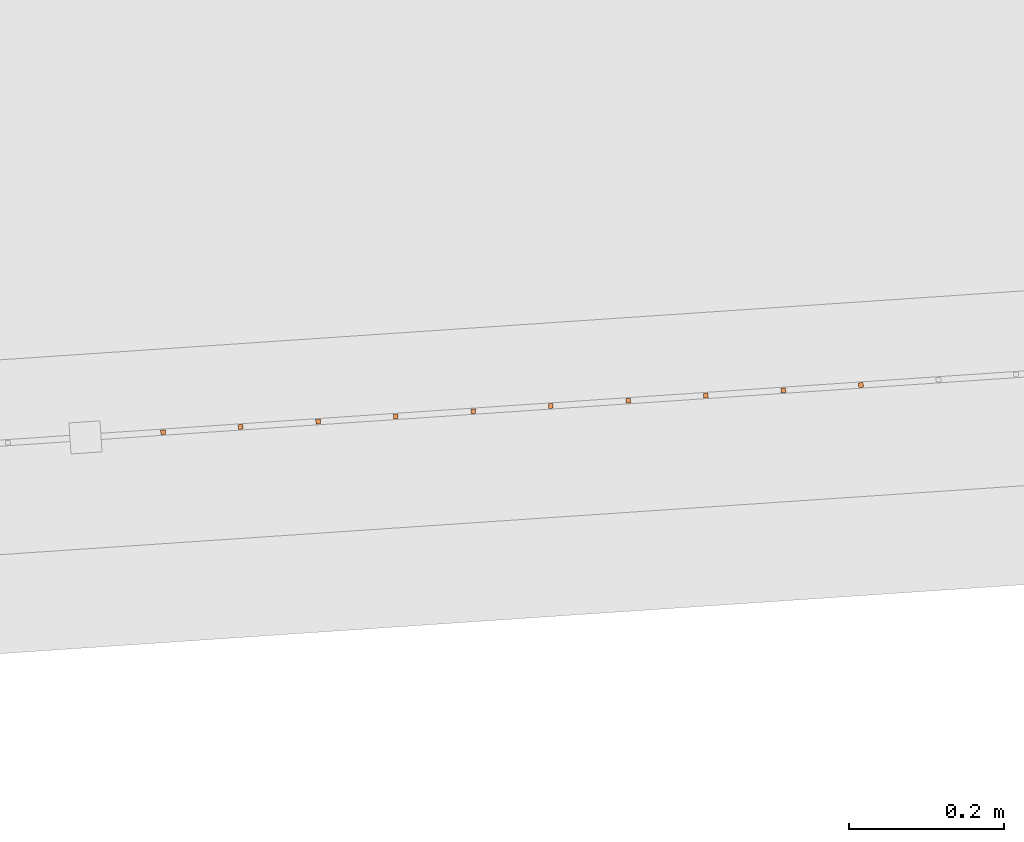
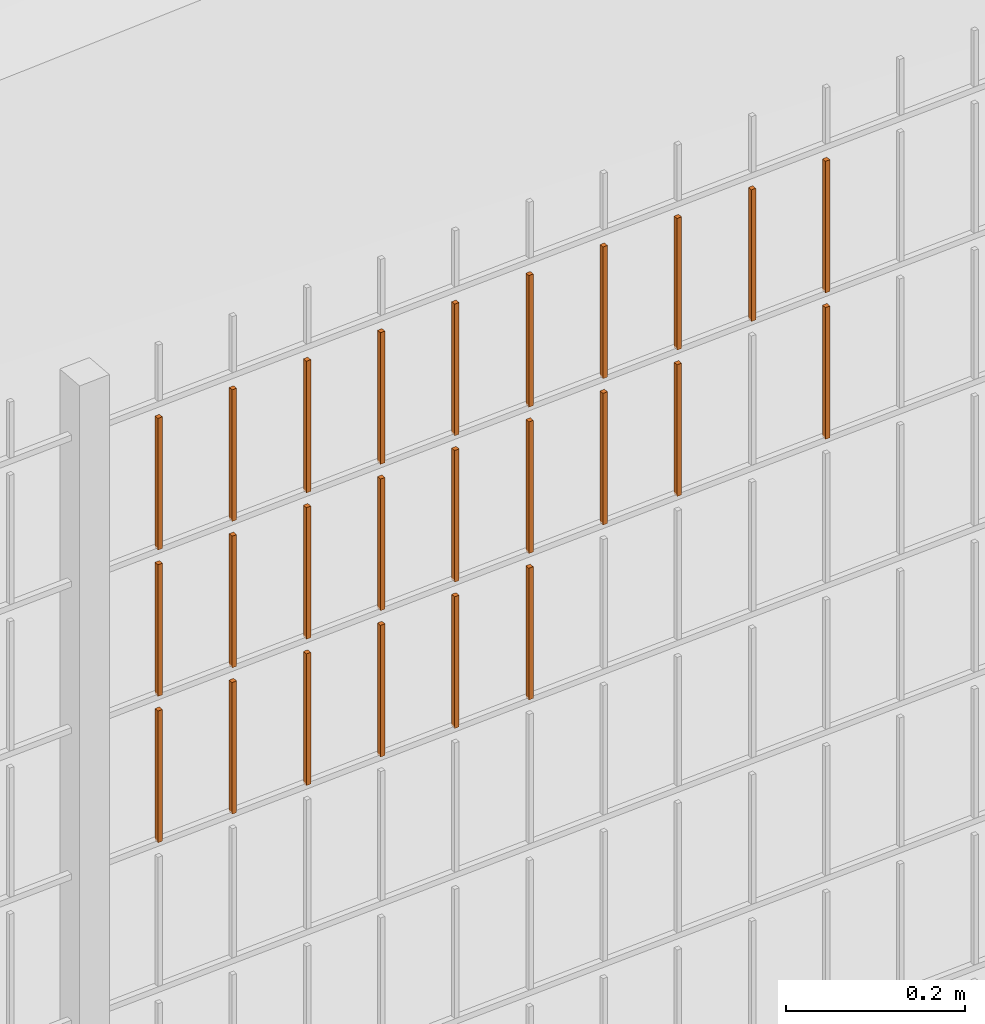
# One storey, part 309 of 1809: 25 proxies, 1 element without a shape of its own.
"""IFC2X3 building model written with IfcOpenShell, lengths in millimetres."""

import ifcopenshell
import ifcopenshell.guid

model = None  # the IFC model being written
_history = None  # IfcOwnerHistory: only IFC2X3 demands one
_inside = {}  # id of a spatial element -> (the spatial element, [elements in it])
_under = {}  # id of a project, library or spatial element -> (it, [spatial elements below it])
_declared = {}  # id of a project -> (the project, [libraries it declares])
_typed = {}  # id of a type object -> (the type object, [elements of that type])
_made_of = {}  # id of a material, layer set ... -> (it, [elements and type objects made of it])


def new_model(schema):
    """Start an empty IFC model of exactly this schema.

    Asked for "IFC4X3", IfcOpenShell would pick the latest addendum, in which some entities
    have other attributes; the version numbers below select the first issue.
    IFC2X3 requires an IfcOwnerHistory on every rooted entity: one is made here for all.
    """
    global model, _history
    if schema == "IFC4X3":
        model = ifcopenshell.file(schema_version=(4, 3, 0, 0))
    else:
        model = ifcopenshell.file(schema=schema)
    _inside.clear()
    _under.clear()
    _declared.clear()
    _typed.clear()
    _made_of.clear()
    _history = None
    if model.schema == "IFC2X3":
        org = make("IfcOrganization", Name="unknown")
        user = make(
            "IfcPersonAndOrganization",
            ThePerson=make("IfcPerson", FamilyName="unknown"),
            TheOrganization=org,
        )
        app = make(
            "IfcApplication",
            ApplicationDeveloper=org,
            Version="unknown",
            ApplicationFullName="unknown",
            ApplicationIdentifier="unknown",
        )
        _history = make(
            "IfcOwnerHistory",
            OwningUser=user,
            OwningApplication=app,
            ChangeAction="ADDED",
            CreationDate=0,
        )
    return model


def make(cls, **values):
    """One entity of the class cls with the attributes given. An attribute that is None is left unset."""
    return model.create_entity(
        cls, **{name: value for name, value in values.items() if value is not None}
    )


def entity(cls, *values):
    """Any entity or typed value of the class cls, its attributes in the order of the schema. None: left unset."""
    e = model.create_entity(cls)
    for i, value in enumerate(values):
        if value is not None:
            e[i] = value
    return e


def rooted(cls, **values):
    """An entity with a GlobalId (a new one), such as an element, a storey or a relation."""
    return make(cls, GlobalId=ifcopenshell.guid.new(), OwnerHistory=_history, **values)


def si_unit(unit_type, name, prefix=None):
    """IfcSIUnit, for example si_unit("LENGTHUNIT", "METRE", prefix="MILLI")."""
    return make("IfcSIUnit", UnitType=unit_type, Prefix=prefix, Name=name)


def converted_unit(unit_type, name, factor, base, dimensions=None, offset=None):
    """IfcConversionBasedUnit, such as the inch: factor (a typed value) times the base unit."""
    return make(
        "IfcConversionBasedUnit"
        if offset is None
        else "IfcConversionBasedUnitWithOffset",
        ConversionOffset=offset,
        Dimensions=None
        if dimensions is None
        else entity("IfcDimensionalExponents", *dimensions),
        UnitType=unit_type,
        Name=name,
        ConversionFactor=make(
            "IfcMeasureWithUnit", ValueComponent=factor, UnitComponent=base
        ),
    )


def derived_unit(unit_type, elements):
    """IfcDerivedUnit: a product of units, each with its exponent."""
    return make(
        "IfcDerivedUnit",
        Elements=[
            make("IfcDerivedUnitElement", Unit=unit, Exponent=power)
            for unit, power in elements
        ],
        UnitType=unit_type,
    )


def money_unit(currency):
    """IfcMonetaryUnit."""
    return make("IfcMonetaryUnit", Currency=currency)


def assignment(units):
    """IfcUnitAssignment: the units of a project."""
    return None if units is None else make("IfcUnitAssignment", Units=units)


def point(xyz):
    """IfcCartesianPoint."""
    return None if xyz is None else make("IfcCartesianPoint", Coordinates=xyz)


def direction(xyz):
    """IfcDirection."""
    return None if xyz is None else make("IfcDirection", DirectionRatios=xyz)


def frame(location, z_axis=None, x_axis=None):
    """IfcAxis2Placement3D, a coordinate frame: its origin and axes. An axis left out is left unset."""
    return make(
        "IfcAxis2Placement3D",
        Location=point(location),
        Axis=direction(z_axis),
        RefDirection=direction(x_axis),
    )


def origin_with_axes():
    """The frame at (0, 0, 0) with the z axis (0, 0, 1) and the x axis (1, 0, 0) written out."""
    return frame((0.0, 0.0, 0.0), z_axis=(0.0, 0.0, 1.0), x_axis=(1.0, 0.0, 0.0))


def place(relative_to, where):
    """IfcLocalPlacement: puts the frame where relative to a parent placement (None: the world)."""
    return make(
        "IfcLocalPlacement", PlacementRelTo=relative_to, RelativePlacement=where
    )


def context(
    kind, dimensions, precision=None, world=None, true_north=None, identifier=None
):
    """IfcGeometricRepresentationContext, for example the 3D "Model" context."""
    return make(
        "IfcGeometricRepresentationContext",
        ContextIdentifier=identifier,
        ContextType=kind,
        CoordinateSpaceDimension=dimensions,
        Precision=precision,
        WorldCoordinateSystem=world,
        TrueNorth=true_north,
    )


def subcontext(parent, identifier, kind, view, scale=None):
    """IfcGeometricRepresentationSubContext, for example "Body" below "Model"."""
    return make(
        "IfcGeometricRepresentationSubContext",
        ContextIdentifier=identifier,
        ContextType=kind,
        ParentContext=parent,
        TargetScale=scale,
        TargetView=view,
    )


def project(units=None, contexts=None):
    """IfcProject with its units and contexts."""
    return rooted(
        "IfcProject",
        Name="project",
        RepresentationContexts=contexts,
        UnitsInContext=assignment(units),
    )


def spatial(cls, under=None, at=None, **own):
    """A site, building, storey or space (cls), placed at a placement, below another one or the project."""
    s = rooted(cls, ObjectPlacement=at, **own)
    if under is not None:
        _under.setdefault(under.id(), (under, []))[1].append(s)
    return s


def faces_of(points, faces, orient=None, outer=None):
    """IfcFace entities. A face is a list of loops; a loop is a list of indices into points, from 0.

    orient and outer hold one flag for each loop. By default every Orientation is true, the
    first loop of a face is its IfcFaceOuterBound and the others are IfcFaceBound.
    """
    made = []
    for i, loops in enumerate(faces):
        bounds = []
        for j, loop in enumerate(loops):
            is_outer = j == 0 if outer is None else outer[i][j]
            bounds.append(
                make(
                    "IfcFaceOuterBound" if is_outer else "IfcFaceBound",
                    Bound=make("IfcPolyLoop", Polygon=[points[k] for k in loop]),
                    Orientation=True if orient is None else orient[i][j],
                )
            )
        made.append(make("IfcFace", Bounds=bounds))
    return made


def faceted_brep(points, faces, orient=None, outer=None, voids=None):
    """IfcFacetedBrep: a solid bounded by flat faces; with voids (closed shells), ...WithVoids."""
    shared = [point(p) for p in points]
    hull = make("IfcClosedShell", CfsFaces=faces_of(shared, faces, orient, outer))
    if voids is None:
        return make("IfcFacetedBrep", Outer=hull)
    return make(
        "IfcFacetedBrepWithVoids",
        Outer=hull,
        Voids=[
            make(cls, CfsFaces=faces_of(shared, fs, o, b)) for cls, fs, o, b in voids
        ],
    )


def shape(context_of_items, identifier, shape_type, items):
    """IfcShapeRepresentation: the items that make up one representation, for example the "Body"."""
    return make(
        "IfcShapeRepresentation",
        ContextOfItems=context_of_items,
        RepresentationIdentifier=identifier,
        RepresentationType=shape_type,
        Items=items,
    )


def source(mapping_origin, context_of_items, identifier, shape_type, items):
    """IfcRepresentationMap: a shape defined once, which mapped items show again and again."""
    return make(
        "IfcRepresentationMap",
        MappingOrigin=mapping_origin,
        MappedRepresentation=shape(context_of_items, identifier, shape_type, items),
    )


def transform(
    local_origin,
    x_axis=None,
    y_axis=None,
    z_axis=None,
    scale=None,
    scale2=None,
    scale3=None,
    uniform=True,
):
    """IfcCartesianTransformationOperator3D, or its non-uniform kind. x_axis, y_axis, z_axis: its Axis1, 2, 3."""
    if uniform:
        return make(
            "IfcCartesianTransformationOperator3D",
            Axis1=direction(x_axis),
            Axis2=direction(y_axis),
            LocalOrigin=point(local_origin),
            Scale=scale,
            Axis3=direction(z_axis),
        )
    return make(
        "IfcCartesianTransformationOperator3DnonUniform",
        Axis1=direction(x_axis),
        Axis2=direction(y_axis),
        LocalOrigin=point(local_origin),
        Scale=scale,
        Axis3=direction(z_axis),
        Scale2=scale2,
        Scale3=scale3,
    )


def mapped(mapping_source, mapping_target):
    """IfcMappedItem: shows the shape of a source again, moved by a transform."""
    return make(
        "IfcMappedItem", MappingSource=mapping_source, MappingTarget=mapping_target
    )


def material(Name=None, Category=None):
    """IfcMaterial."""
    return make("IfcMaterial", Name=Name, Category=Category)


def made_of(thing, what):
    """Note that an element or type object is made of a material, layer set ...; save() writes the relation."""
    if what is not None:
        _made_of.setdefault(what.id(), (what, []))[1].append(thing)
    return thing


def type_object(cls, material=None, **own):
    """A type object (cls), such as IfcWallType, which elements share."""
    return made_of(rooted(cls, **own), material)


def element(
    cls,
    number,
    at=None,
    inside=None,
    cuts=None,
    type_object=None,
    material=None,
    context=None,
    identifier="Body",
    shape_type=None,
    held_by="IfcProductDefinitionShape",
    body=None,
    shapes=None,
    **own,
):
    """One element of the class cls, such as IfcWall. Its Tag is "e" and its number.

    at: its placement. inside: the storey or other place that contains it. cuts: it is an
    opening in that element (IfcRelVoidsElement). A single representation is given by context,
    identifier, shape_type and body (its items); several are given by shapes. held_by: the class
    of the entity that holds the representations. save() writes the other relations.
    """
    e = rooted(cls, Tag="e%d" % number, ObjectPlacement=at, **own)
    if body is not None:
        shapes = [shape(context, identifier, shape_type, body)]
    if shapes is not None:
        e.Representation = make(held_by, Representations=shapes)
    if inside is not None:
        _inside.setdefault(inside.id(), (inside, []))[1].append(e)
    if cuts is not None:
        rooted(
            "IfcRelVoidsElement", RelatingBuildingElement=cuts, RelatedOpeningElement=e
        )
    if type_object is not None:
        _typed.setdefault(type_object.id(), (type_object, []))[1].append(e)
    return made_of(e, material)


def aggregate(whole, parts):
    """IfcRelAggregates: a whole, such as a stair, and the parts it consists of."""
    return rooted("IfcRelAggregates", RelatingObject=whole, RelatedObjects=parts)


def save(model, path):
    """Write the relations noted so far, then the file.

    IfcRelAggregates (storeys below a building ...), IfcRelContainedInSpatialStructure (elements
    in a storey), IfcRelDefinesByType, IfcRelAssociatesMaterial and IfcRelDeclares: one each for
    every whole, place, type object, material and project.
    """
    for whole, parts in _under.values():
        aggregate(whole, parts)
    for where, things in _inside.values():
        rooted(
            "IfcRelContainedInSpatialStructure",
            RelatedElements=things,
            RelatingStructure=where,
        )
    for kind, things in _typed.values():
        rooted("IfcRelDefinesByType", RelatedObjects=things, RelatingType=kind)
    for what, things in _made_of.values():
        rooted("IfcRelAssociatesMaterial", RelatedObjects=things, RelatingMaterial=what)
    for by, libraries in _declared.values():
        rooted("IfcRelDeclares", RelatingContext=by, RelatedDefinitions=libraries)
    model.write(path)


model = new_model("IFC2X3")

# Units and contexts
model_context = context("Model", 3, precision=0.01, world=origin_with_axes(), true_north=direction((0.0, 1.0)))
body_context = subcontext(model_context, "Body", "Model", "MODEL_VIEW")
ifc_project = project(units=[si_unit("LENGTHUNIT", "METRE", prefix="MILLI"), si_unit("AREAUNIT", "SQUARE_METRE"), si_unit("VOLUMEUNIT", "CUBIC_METRE"), converted_unit("PLANEANGLEUNIT", "DEGREE", entity("IfcPlaneAngleMeasure", 0.0174532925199), si_unit("PLANEANGLEUNIT", "RADIAN"), dimensions=[0, 0, 0, 0, 0, 0, 0]), si_unit("SOLIDANGLEUNIT", "STERADIAN"), money_unit("EUR"), converted_unit("TIMEUNIT", "Year", entity("IfcTimeMeasure", 31556926.0), si_unit("TIMEUNIT", "SECOND"), dimensions=[0, 0, 1, 0, 0, 0, 0]), si_unit("MASSUNIT", "GRAM", prefix="KILO"), si_unit("THERMODYNAMICTEMPERATUREUNIT", "DEGREE_CELSIUS"), si_unit("LUMINOUSINTENSITYUNIT", "LUMEN"), si_unit("ENERGYUNIT", "JOULE", prefix="MEGA"), derived_unit("THERMALCONDUCTANCEUNIT", [(si_unit("POWERUNIT", "WATT"), 1), (si_unit("LENGTHUNIT", "METRE"), -1), (si_unit("THERMODYNAMICTEMPERATUREUNIT", "KELVIN"), -1)]), derived_unit("SPECIFICHEATCAPACITYUNIT", [(si_unit("ENERGYUNIT", "JOULE"), 1), (si_unit("MASSUNIT", "GRAM", prefix="KILO"), -1), (si_unit("THERMODYNAMICTEMPERATUREUNIT", "KELVIN"), -1)]), derived_unit("MASSDENSITYUNIT", [(si_unit("MASSUNIT", "GRAM", prefix="KILO"), 1), (si_unit("VOLUMEUNIT", "CUBIC_METRE"), -1)])], contexts=[model_context])

# Site, building, storey
site_placement = place(None, origin_with_axes())
site = spatial("IfcSite", under=ifc_project, at=site_placement, Name="Politse- ja Piirivalveameti ning Päästeameti ühishoone", CompositionType="ELEMENT")
building_placement = place(site_placement, origin_with_axes())
building = spatial("IfcBuilding", under=site, at=building_placement, Name="Politse- ja Piirivalveameti ning Päästeameti ühishoone", CompositionType="ELEMENT")
storey_placement = place(building_placement, origin_with_axes())
storey = spatial("IfcBuildingStorey", under=building, at=storey_placement, Name="Esimene korrus", CompositionType="ELEMENT", Elevation=0.0)

# Proxies
building_element_proxy_type_1 = type_object("IfcBuildingElementProxyType", Name="Railing Type", PredefinedType="NOTDEFINED")
proxy_1_placement = place(storey_placement, frame((89252.001212, -29183.4766571, 203.661247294), z_axis=(0.0, 0.0, 1.0), x_axis=(1.0, 0.0, 0.0)))
proxy_1 = element("IfcBuildingElementProxy", 1, at=proxy_1_placement, inside=storey, type_object=building_element_proxy_type_1, Name="PIIRDEAED")
ifc_material = material(Name="ET-03_Raud")
building_element_proxy_type_2 = type_object("IfcBuildingElementProxyType", Name="IfcBuildingElementProxy", PredefinedType="NOTDEFINED")
shared_shape_1 = source(origin_with_axes(), body_context, "Body", "Brep", [
    faceted_brep([(3.0, 3.0, -0.000752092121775), (-3.0, 3.0, -0.000752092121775), (-3.0, 3.0, 179.99926046), (3.0, 3.0, 179.99926046), (3.0, -3.0, 0.000752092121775), (-3.0, -3.0, 0.000752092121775), (-3.0, -3.0, 180.000764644), (3.0, -3.0, 180.000764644)], [[[0, 1, 2, 3]], [[0, 4, 5, 1]], [[1, 5, 6, 2]], [[3, 2, 6, 7]], [[4, 0, 3, 7]], [[5, 4, 7, 6]]]),
])
proxy_2_placement = place(proxy_1_placement, frame((-41532.0509529, -20103.1080672, 1816.79868415), z_axis=(0.0, 0.0, 1.0), x_axis=(1.0, 0.0, 0.0)))
proxy_2 = element("IfcBuildingElementProxy", 2, at=proxy_2_placement, type_object=building_element_proxy_type_2, material=ifc_material, Name="BALUSTER - 001", context=body_context, shape_type="MappedRepresentation", body=[
    mapped(shared_shape_1, transform((0.0, 0.0, 0.0), x_axis=(-0.0673926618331, 0.997726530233, 0.0), y_axis=(-0.997726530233, -0.0673926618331, 0.0), z_axis=(0.0, 0.0, 1.0))),
])
shared_shape_2 = source(origin_with_axes(), body_context, "Body", "Brep", [
    faceted_brep([(3.0, 3.0, -0.000752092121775), (-3.0, 3.0, -0.000752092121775), (-3.0, 3.0, 179.99926046), (3.0, 3.0, 179.99926046), (3.0, -3.0, 0.000752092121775), (-3.0, -3.0, 0.000752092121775), (-3.0, -3.0, 180.000764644), (3.0, -3.0, 180.000764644)], [[[0, 1, 2, 3]], [[0, 4, 5, 1]], [[1, 5, 6, 2]], [[3, 2, 6, 7]], [[4, 0, 3, 7]], [[5, 4, 7, 6]]]),
])
proxy_3_placement = place(proxy_1_placement, frame((-41631.8236059, -20109.8473334, 1416.77361441), z_axis=(0.0, 0.0, 1.0), x_axis=(1.0, 0.0, 0.0)))
proxy_3 = element("IfcBuildingElementProxy", 3, at=proxy_3_placement, type_object=building_element_proxy_type_2, material=ifc_material, Name="BALUSTER - 001", context=body_context, shape_type="MappedRepresentation", body=[
    mapped(shared_shape_2, transform((0.0, 0.0, 0.0), x_axis=(-0.0673926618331, 0.997726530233, 0.0), y_axis=(-0.997726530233, -0.0673926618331, 0.0), z_axis=(0.0, 0.0, 1.0))),
])
proxy_4_placement = place(proxy_1_placement, frame((-41931.141565, -20130.0651319, 1416.6984052), z_axis=(0.0, 0.0, 1.0), x_axis=(1.0, 0.0, 0.0)))
proxy_4 = element("IfcBuildingElementProxy", 4, at=proxy_4_placement, type_object=building_element_proxy_type_2, material=ifc_material, Name="BALUSTER - 001", context=body_context, shape_type="MappedRepresentation", body=[
    mapped(shared_shape_2, transform((0.0, 0.0, 0.0), x_axis=(-0.0673926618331, 0.997726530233, 0.0), y_axis=(-0.997726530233, -0.0673926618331, 0.0), z_axis=(0.0, 0.0, 1.0))),
])
shared_shape_3 = source(origin_with_axes(), body_context, "Body", "Brep", [
    faceted_brep([(3.0, 3.0, -0.000752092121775), (-3.0, 3.0, -0.000752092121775), (-3.0, 3.0, 179.99926046), (3.0, 3.0, 179.99926046), (3.0, -3.0, 0.000752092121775), (-3.0, -3.0, 0.000752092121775), (-3.0, -3.0, 180.000764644), (3.0, -3.0, 180.000764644)], [[[0, 1, 2, 3]], [[0, 4, 5, 1]], [[1, 5, 6, 2]], [[3, 2, 6, 7]], [[4, 0, 3, 7]], [[5, 4, 7, 6]]]),
])
proxy_5_placement = place(proxy_1_placement, frame((-41631.8236059, -20109.8473334, 1616.77361441), z_axis=(0.0, 0.0, 1.0), x_axis=(1.0, 0.0, 0.0)))
proxy_5 = element("IfcBuildingElementProxy", 5, at=proxy_5_placement, type_object=building_element_proxy_type_2, material=ifc_material, Name="BALUSTER - 001", context=body_context, shape_type="MappedRepresentation", body=[
    mapped(shared_shape_3, transform((0.0, 0.0, 0.0), x_axis=(-0.0673926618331, 0.997726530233, 0.0), y_axis=(-0.997726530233, -0.0673926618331, 0.0), z_axis=(0.0, 0.0, 1.0))),
])
proxy_6_placement = place(proxy_1_placement, frame((-41931.141565, -20130.0651319, 1616.6984052), z_axis=(0.0, 0.0, 1.0), x_axis=(1.0, 0.0, 0.0)))
proxy_6 = element("IfcBuildingElementProxy", 6, at=proxy_6_placement, type_object=building_element_proxy_type_2, material=ifc_material, Name="BALUSTER - 001", context=body_context, shape_type="MappedRepresentation", body=[
    mapped(shared_shape_3, transform((0.0, 0.0, 0.0), x_axis=(-0.0673926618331, 0.997726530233, 0.0), y_axis=(-0.997726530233, -0.0673926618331, 0.0), z_axis=(0.0, 0.0, 1.0))),
])
shared_shape_4 = source(origin_with_axes(), body_context, "Body", "Brep", [
    faceted_brep([(3.0, 3.0, -0.000752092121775), (-3.0, 3.0, -0.000752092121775), (-3.0, 3.0, 179.99926046), (3.0, 3.0, 179.99926046), (3.0, -3.0, 0.000752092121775), (-3.0, -3.0, 0.000752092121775), (-3.0, -3.0, 180.000764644), (3.0, -3.0, 180.000764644)], [[[0, 1, 2, 3]], [[0, 4, 5, 1]], [[1, 5, 6, 2]], [[3, 2, 6, 7]], [[4, 0, 3, 7]], [[5, 4, 7, 6]]]),
])
proxy_7_placement = place(proxy_1_placement, frame((-41631.8236059, -20109.8473334, 1816.77361441), z_axis=(0.0, 0.0, 1.0), x_axis=(1.0, 0.0, 0.0)))
proxy_7 = element("IfcBuildingElementProxy", 7, at=proxy_7_placement, type_object=building_element_proxy_type_2, material=ifc_material, Name="BALUSTER - 001", context=body_context, shape_type="MappedRepresentation", body=[
    mapped(shared_shape_4, transform((0.0, 0.0, 0.0), x_axis=(-0.0673926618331, 0.997726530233, 0.0), y_axis=(-0.997726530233, -0.0673926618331, 0.0), z_axis=(0.0, 0.0, 1.0))),
])
proxy_8_placement = place(proxy_1_placement, frame((-41931.141565, -20130.0651319, 1816.6984052), z_axis=(0.0, 0.0, 1.0), x_axis=(1.0, 0.0, 0.0)))
proxy_8 = element("IfcBuildingElementProxy", 8, at=proxy_8_placement, type_object=building_element_proxy_type_2, material=ifc_material, Name="BALUSTER - 001", context=body_context, shape_type="MappedRepresentation", body=[
    mapped(shared_shape_4, transform((0.0, 0.0, 0.0), x_axis=(-0.0673926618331, 0.997726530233, 0.0), y_axis=(-0.997726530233, -0.0673926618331, 0.0), z_axis=(0.0, 0.0, 1.0))),
])
shared_shape_5 = source(origin_with_axes(), body_context, "Body", "Brep", [
    faceted_brep([(3.0, 3.0, -0.000752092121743), (-3.0, 3.0, -0.000752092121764), (-3.0, 3.0, 179.99926046), (3.0, 3.0, 179.99926046), (3.0, -3.0, 0.000752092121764), (-3.0, -3.0, 0.000752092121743), (-3.0, -3.0, 180.000764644), (3.0, -3.0, 180.000764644)], [[[0, 1, 2, 3]], [[0, 4, 5, 1]], [[1, 5, 6, 2]], [[3, 2, 6, 7]], [[4, 0, 3, 7]], [[5, 4, 7, 6]]]),
])
proxy_9_placement = place(proxy_1_placement, frame((-41831.368912, -20123.3258657, 1416.72347494), z_axis=(0.0, 0.0, 1.0), x_axis=(1.0, 0.0, 0.0)))
proxy_9 = element("IfcBuildingElementProxy", 9, at=proxy_9_placement, type_object=building_element_proxy_type_2, material=ifc_material, Name="BALUSTER - 001", context=body_context, shape_type="MappedRepresentation", body=[
    mapped(shared_shape_5, transform((0.0, 0.0, 0.0), x_axis=(-0.0673926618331, 0.997726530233, 0.0), y_axis=(-0.997726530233, -0.0673926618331, 0.0), z_axis=(0.0, 0.0, 1.0))),
])
proxy_10_placement = place(proxy_1_placement, frame((-41831.368912, -20123.3258657, 1616.72347494), z_axis=(0.0, 0.0, 1.0), x_axis=(1.0, 0.0, 0.0)))
proxy_10 = element("IfcBuildingElementProxy", 10, at=proxy_10_placement, type_object=building_element_proxy_type_2, material=ifc_material, Name="BALUSTER - 001", context=body_context, shape_type="MappedRepresentation", body=[
    mapped(shared_shape_5, transform((0.0, 0.0, 0.0), x_axis=(-0.0673926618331, 0.997726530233, 0.0), y_axis=(-0.997726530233, -0.0673926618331, 0.0), z_axis=(0.0, 0.0, 1.0))),
])
shared_shape_6 = source(origin_with_axes(), body_context, "Body", "Brep", [
    faceted_brep([(3.0, 3.0, -0.000752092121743), (-3.0, 3.0, -0.000752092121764), (-3.0, 3.0, 179.99926046), (3.0, 3.0, 179.99926046), (3.0, -3.0, 0.000752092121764), (-3.0, -3.0, 0.000752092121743), (-3.0, -3.0, 180.000764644), (3.0, -3.0, 180.000764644)], [[[0, 1, 2, 3]], [[0, 4, 5, 1]], [[1, 5, 6, 2]], [[3, 2, 6, 7]], [[4, 0, 3, 7]], [[5, 4, 7, 6]]]),
])
proxy_11_placement = place(proxy_1_placement, frame((-41831.368912, -20123.3258657, 1816.72347494), z_axis=(0.0, 0.0, 1.0), x_axis=(1.0, 0.0, 0.0)))
proxy_11 = element("IfcBuildingElementProxy", 11, at=proxy_11_placement, type_object=building_element_proxy_type_2, material=ifc_material, Name="BALUSTER - 001", context=body_context, shape_type="MappedRepresentation", body=[
    mapped(shared_shape_6, transform((0.0, 0.0, 0.0), x_axis=(-0.0673926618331, 0.997726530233, 0.0), y_axis=(-0.997726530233, -0.0673926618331, 0.0), z_axis=(0.0, 0.0, 1.0))),
])
shared_shape_7 = source(origin_with_axes(), body_context, "Body", "Brep", [
    faceted_brep([(3.0, 3.0, -0.000752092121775), (-3.0, 3.0, -0.000752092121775), (-3.0, 3.0, 179.99926046), (3.0, 3.0, 179.99926046), (3.0, -3.0, 0.000752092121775), (-3.0, -3.0, 0.000752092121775), (-3.0, -3.0, 180.000764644), (3.0, -3.0, 180.000764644)], [[[0, 1, 2, 3]], [[0, 4, 5, 1]], [[1, 5, 6, 2]], [[3, 2, 6, 7]], [[4, 0, 3, 7]], [[5, 4, 7, 6]]]),
])
proxy_12_placement = place(proxy_1_placement, frame((-41532.0509529, -20103.1080672, 1616.79868415), z_axis=(0.0, 0.0, 1.0), x_axis=(1.0, 0.0, 0.0)))
proxy_12 = element("IfcBuildingElementProxy", 12, at=proxy_12_placement, type_object=building_element_proxy_type_2, material=ifc_material, Name="BALUSTER - 001", context=body_context, shape_type="MappedRepresentation", body=[
    mapped(shared_shape_7, transform((0.0, 0.0, 0.0), x_axis=(-0.0673926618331, 0.997726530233, 0.0), y_axis=(-0.997726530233, -0.0673926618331, 0.0), z_axis=(0.0, 0.0, 1.0))),
])
shared_shape_8 = source(origin_with_axes(), body_context, "Body", "Brep", [
    faceted_brep([(3.0, 3.0, -0.000752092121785), (-3.0, 3.0, -0.000752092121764), (-3.0, 3.0, 179.99926046), (3.0, 3.0, 179.99926046), (3.0, -3.0, 0.000752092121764), (-3.0, -3.0, 0.000752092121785), (-3.0, -3.0, 180.000764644), (3.0, -3.0, 180.000764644)], [[[0, 1, 2, 3]], [[0, 4, 5, 1]], [[1, 5, 6, 2]], [[3, 2, 6, 7]], [[4, 0, 3, 7]], [[5, 4, 7, 6]]]),
])
proxy_13_placement = place(proxy_1_placement, frame((-42130.686871, -20143.5436643, 1816.64826573), z_axis=(0.0, 0.0, 1.0), x_axis=(1.0, 0.0, 0.0)))
proxy_13 = element("IfcBuildingElementProxy", 13, at=proxy_13_placement, type_object=building_element_proxy_type_2, material=ifc_material, Name="BALUSTER - 001", context=body_context, shape_type="MappedRepresentation", body=[
    mapped(shared_shape_8, transform((0.0, 0.0, 0.0), x_axis=(-0.0673926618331, 0.997726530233, 0.0), y_axis=(-0.997726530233, -0.0673926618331, 0.0), z_axis=(0.0, 0.0, 1.0))),
])
shared_shape_9 = source(origin_with_axes(), body_context, "Body", "Brep", [
    faceted_brep([(3.0, 3.0, -0.000752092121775), (-3.0, 3.0, -0.000752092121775), (-3.0, 3.0, 179.99926046), (3.0, 3.0, 179.99926046), (3.0, -3.0, 0.000752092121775), (-3.0, -3.0, 0.000752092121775), (-3.0, -3.0, 180.000764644), (3.0, -3.0, 180.000764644)], [[[0, 1, 2, 3]], [[0, 4, 5, 1]], [[1, 5, 6, 2]], [[3, 2, 6, 7]], [[4, 0, 3, 7]], [[5, 4, 7, 6]]]),
])
proxy_14_placement = place(proxy_1_placement, frame((-41432.2782999, -20096.368801, 1816.82375389), z_axis=(0.0, 0.0, 1.0), x_axis=(1.0, 0.0, 0.0)))
proxy_14 = element("IfcBuildingElementProxy", 14, at=proxy_14_placement, type_object=building_element_proxy_type_2, material=ifc_material, Name="BALUSTER - 001", context=body_context, shape_type="MappedRepresentation", body=[
    mapped(shared_shape_9, transform((0.0, 0.0, 0.0), x_axis=(-0.0673926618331, 0.997726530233, 0.0), y_axis=(-0.997726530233, -0.0673926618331, 0.0), z_axis=(0.0, 0.0, 1.0))),
])
shared_shape_10 = source(origin_with_axes(), body_context, "Body", "Brep", [
    faceted_brep([(3.0, 3.0, -0.000752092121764), (-3.0, 3.0, -0.000752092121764), (-3.0, 3.0, 179.99926046), (3.0, 3.0, 179.99926046), (3.0, -3.0, 0.000752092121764), (-3.0, -3.0, 0.000752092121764), (-3.0, -3.0, 180.000764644), (3.0, -3.0, 180.000764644)], [[[0, 1, 2, 3]], [[0, 4, 5, 1]], [[1, 5, 6, 2]], [[3, 2, 6, 7]], [[4, 0, 3, 7]], [[5, 4, 7, 6]]]),
])
proxy_15_placement = place(proxy_1_placement, frame((-41731.5962589, -20116.5865995, 1816.74854468), z_axis=(0.0, 0.0, 1.0), x_axis=(1.0, 0.0, 0.0)))
proxy_15 = element("IfcBuildingElementProxy", 15, at=proxy_15_placement, type_object=building_element_proxy_type_2, material=ifc_material, Name="BALUSTER - 001", context=body_context, shape_type="MappedRepresentation", body=[
    mapped(shared_shape_10, transform((0.0, 0.0, 0.0), x_axis=(-0.0673926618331, 0.997726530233, 0.0), y_axis=(-0.997726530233, -0.0673926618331, 0.0), z_axis=(0.0, 0.0, 1.0))),
])
shared_shape_11 = source(origin_with_axes(), body_context, "Body", "Brep", [
    faceted_brep([(3.0, 3.0, -0.000752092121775), (-3.0, 3.0, -0.000752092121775), (-3.0, 3.0, 179.99926046), (3.0, 3.0, 179.99926046), (3.0, -3.0, 0.000752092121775), (-3.0, -3.0, 0.000752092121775), (-3.0, -3.0, 180.000764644), (3.0, -3.0, 180.000764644)], [[[0, 1, 2, 3]], [[0, 4, 5, 1]], [[1, 5, 6, 2]], [[3, 2, 6, 7]], [[4, 0, 3, 7]], [[5, 4, 7, 6]]]),
])
proxy_16_placement = place(proxy_1_placement, frame((-41432.2782999, -20096.368801, 1616.82375389), z_axis=(0.0, 0.0, 1.0), x_axis=(1.0, 0.0, 0.0)))
proxy_16 = element("IfcBuildingElementProxy", 16, at=proxy_16_placement, type_object=building_element_proxy_type_2, material=ifc_material, Name="BALUSTER - 001", context=body_context, shape_type="MappedRepresentation", body=[
    mapped(shared_shape_11, transform((0.0, 0.0, 0.0), x_axis=(-0.0673926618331, 0.997726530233, 0.0), y_axis=(-0.997726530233, -0.0673926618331, 0.0), z_axis=(0.0, 0.0, 1.0))),
])
shared_shape_12 = source(origin_with_axes(), body_context, "Body", "Brep", [
    faceted_brep([(3.0, 3.0, -0.000752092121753), (-3.0, 3.0, -0.000752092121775), (-3.0, 3.0, 179.99926046), (3.0, 3.0, 179.99926046), (3.0, -3.0, 0.000752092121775), (-3.0, -3.0, 0.000752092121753), (-3.0, -3.0, 180.000764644), (3.0, -3.0, 180.000764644)], [[[0, 1, 2, 3]], [[0, 4, 5, 1]], [[1, 5, 6, 2]], [[3, 2, 6, 7]], [[4, 0, 3, 7]], [[5, 4, 7, 6]]]),
])
proxy_17_placement = place(proxy_1_placement, frame((-41232.7329938, -20082.8902686, 1616.87389336), z_axis=(0.0, 0.0, 1.0), x_axis=(1.0, 0.0, 0.0)))
proxy_17 = element("IfcBuildingElementProxy", 17, at=proxy_17_placement, type_object=building_element_proxy_type_2, material=ifc_material, Name="BALUSTER - 001", context=body_context, shape_type="MappedRepresentation", body=[
    mapped(shared_shape_12, transform((0.0, 0.0, 0.0), x_axis=(-0.0673926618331, 0.997726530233, 0.0), y_axis=(-0.997726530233, -0.0673926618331, 0.0), z_axis=(0.0, 0.0, 1.0))),
])
shared_shape_13 = source(origin_with_axes(), body_context, "Body", "Brep", [
    faceted_brep([(3.0, 3.0, -0.000752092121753), (-3.0, 3.0, -0.000752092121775), (-3.0, 3.0, 179.99926046), (3.0, 3.0, 179.99926046), (3.0, -3.0, 0.000752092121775), (-3.0, -3.0, 0.000752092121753), (-3.0, -3.0, 180.000764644), (3.0, -3.0, 180.000764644)], [[[0, 1, 2, 3]], [[0, 4, 5, 1]], [[1, 5, 6, 2]], [[3, 2, 6, 7]], [[4, 0, 3, 7]], [[5, 4, 7, 6]]]),
])
proxy_18_placement = place(proxy_1_placement, frame((-41232.7329938, -20082.8902686, 1816.87389336), z_axis=(0.0, 0.0, 1.0), x_axis=(1.0, 0.0, 0.0)))
proxy_18 = element("IfcBuildingElementProxy", 18, at=proxy_18_placement, type_object=building_element_proxy_type_2, material=ifc_material, Name="BALUSTER - 001", context=body_context, shape_type="MappedRepresentation", body=[
    mapped(shared_shape_13, transform((0.0, 0.0, 0.0), x_axis=(-0.0673926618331, 0.997726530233, 0.0), y_axis=(-0.997726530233, -0.0673926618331, 0.0), z_axis=(0.0, 0.0, 1.0))),
])
shared_shape_14 = source(origin_with_axes(), body_context, "Body", "Brep", [
    faceted_brep([(3.0, 3.0, -0.000752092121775), (-3.0, 3.0, -0.000752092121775), (-3.0, 3.0, 179.99926046), (3.0, 3.0, 179.99926046), (3.0, -3.0, 0.000752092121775), (-3.0, -3.0, 0.000752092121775), (-3.0, -3.0, 180.000764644), (3.0, -3.0, 180.000764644)], [[[0, 1, 2, 3]], [[0, 4, 5, 1]], [[1, 5, 6, 2]], [[3, 2, 6, 7]], [[4, 0, 3, 7]], [[5, 4, 7, 6]]]),
])
proxy_19_placement = place(proxy_1_placement, frame((-41332.5056468, -20089.6295348, 1816.84882363), z_axis=(0.0, 0.0, 1.0), x_axis=(1.0, 0.0, 0.0)))
proxy_19 = element("IfcBuildingElementProxy", 19, at=proxy_19_placement, type_object=building_element_proxy_type_2, material=ifc_material, Name="BALUSTER - 001", context=body_context, shape_type="MappedRepresentation", body=[
    mapped(shared_shape_14, transform((0.0, 0.0, 0.0), x_axis=(-0.0673926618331, 0.997726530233, 0.0), y_axis=(-0.997726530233, -0.0673926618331, 0.0), z_axis=(0.0, 0.0, 1.0))),
])
shared_shape_15 = source(origin_with_axes(), body_context, "Body", "Brep", [
    faceted_brep([(3.0, 3.0, -0.000752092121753), (-3.0, 3.0, -0.000752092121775), (-3.0, 3.0, 179.99926046), (3.0, 3.0, 179.99926046), (3.0, -3.0, 0.000752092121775), (-3.0, -3.0, 0.000752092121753), (-3.0, -3.0, 180.000764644), (3.0, -3.0, 180.000764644)], [[[0, 1, 2, 3]], [[0, 4, 5, 1]], [[1, 5, 6, 2]], [[3, 2, 6, 7]], [[4, 0, 3, 7]], [[5, 4, 7, 6]]]),
])
proxy_20_placement = place(proxy_1_placement, frame((-42030.914218, -20136.8043981, 1816.67333546), z_axis=(0.0, 0.0, 1.0), x_axis=(1.0, 0.0, 0.0)))
proxy_20 = element("IfcBuildingElementProxy", 20, at=proxy_20_placement, type_object=building_element_proxy_type_2, material=ifc_material, Name="BALUSTER - 001", context=body_context, shape_type="MappedRepresentation", body=[
    mapped(shared_shape_15, transform((0.0, 0.0, 0.0), x_axis=(-0.0673926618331, 0.997726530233, 0.0), y_axis=(-0.997726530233, -0.0673926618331, 0.0), z_axis=(0.0, 0.0, 1.0))),
])
shared_shape_16 = source(origin_with_axes(), body_context, "Body", "Brep", [
    faceted_brep([(3.0, 3.0, -0.000752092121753), (-3.0, 3.0, -0.000752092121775), (-3.0, 3.0, 179.99926046), (3.0, 3.0, 179.99926046), (3.0, -3.0, 0.000752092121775), (-3.0, -3.0, 0.000752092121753), (-3.0, -3.0, 180.000764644), (3.0, -3.0, 180.000764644)], [[[0, 1, 2, 3]], [[0, 4, 5, 1]], [[1, 5, 6, 2]], [[3, 2, 6, 7]], [[4, 0, 3, 7]], [[5, 4, 7, 6]]]),
])
proxy_21_placement = place(proxy_1_placement, frame((-42030.914218, -20136.8043981, 1416.67333546), z_axis=(0.0, 0.0, 1.0), x_axis=(1.0, 0.0, 0.0)))
proxy_21 = element("IfcBuildingElementProxy", 21, at=proxy_21_placement, type_object=building_element_proxy_type_2, material=ifc_material, Name="BALUSTER - 001", context=body_context, shape_type="MappedRepresentation", body=[
    mapped(shared_shape_16, transform((0.0, 0.0, 0.0), x_axis=(-0.0673926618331, 0.997726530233, 0.0), y_axis=(-0.997726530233, -0.0673926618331, 0.0), z_axis=(0.0, 0.0, 1.0))),
])
shared_shape_17 = source(origin_with_axes(), body_context, "Body", "Brep", [
    faceted_brep([(3.0, 3.0, -0.000752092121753), (-3.0, 3.0, -0.000752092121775), (-3.0, 3.0, 179.99926046), (3.0, 3.0, 179.99926046), (3.0, -3.0, 0.000752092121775), (-3.0, -3.0, 0.000752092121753), (-3.0, -3.0, 180.000764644), (3.0, -3.0, 180.000764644)], [[[0, 1, 2, 3]], [[0, 4, 5, 1]], [[1, 5, 6, 2]], [[3, 2, 6, 7]], [[4, 0, 3, 7]], [[5, 4, 7, 6]]]),
])
proxy_22_placement = place(proxy_1_placement, frame((-42030.914218, -20136.8043981, 1616.67333546), z_axis=(0.0, 0.0, 1.0), x_axis=(1.0, 0.0, 0.0)))
proxy_22 = element("IfcBuildingElementProxy", 22, at=proxy_22_placement, type_object=building_element_proxy_type_2, material=ifc_material, Name="BALUSTER - 001", context=body_context, shape_type="MappedRepresentation", body=[
    mapped(shared_shape_17, transform((0.0, 0.0, 0.0), x_axis=(-0.0673926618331, 0.997726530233, 0.0), y_axis=(-0.997726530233, -0.0673926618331, 0.0), z_axis=(0.0, 0.0, 1.0))),
])
shared_shape_18 = source(origin_with_axes(), body_context, "Body", "Brep", [
    faceted_brep([(3.0, 3.0, -0.000752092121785), (-3.0, 3.0, -0.000752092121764), (-3.0, 3.0, 179.99926046), (3.0, 3.0, 179.99926046), (3.0, -3.0, 0.000752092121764), (-3.0, -3.0, 0.000752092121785), (-3.0, -3.0, 180.000764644), (3.0, -3.0, 180.000764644)], [[[0, 1, 2, 3]], [[0, 4, 5, 1]], [[1, 5, 6, 2]], [[3, 2, 6, 7]], [[4, 0, 3, 7]], [[5, 4, 7, 6]]]),
])
proxy_23_placement = place(proxy_1_placement, frame((-42130.686871, -20143.5436643, 1416.64826573), z_axis=(0.0, 0.0, 1.0), x_axis=(1.0, 0.0, 0.0)))
proxy_23 = element("IfcBuildingElementProxy", 23, at=proxy_23_placement, type_object=building_element_proxy_type_2, material=ifc_material, Name="BALUSTER - 001", context=body_context, shape_type="MappedRepresentation", body=[
    mapped(shared_shape_18, transform((0.0, 0.0, 0.0), x_axis=(-0.0673926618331, 0.997726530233, 0.0), y_axis=(-0.997726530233, -0.0673926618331, 0.0), z_axis=(0.0, 0.0, 1.0))),
])
proxy_24_placement = place(proxy_1_placement, frame((-42130.686871, -20143.5436643, 1616.64826573), z_axis=(0.0, 0.0, 1.0), x_axis=(1.0, 0.0, 0.0)))
proxy_24 = element("IfcBuildingElementProxy", 24, at=proxy_24_placement, type_object=building_element_proxy_type_2, material=ifc_material, Name="BALUSTER - 001", context=body_context, shape_type="MappedRepresentation", body=[
    mapped(shared_shape_18, transform((0.0, 0.0, 0.0), x_axis=(-0.0673926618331, 0.997726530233, 0.0), y_axis=(-0.997726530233, -0.0673926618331, 0.0), z_axis=(0.0, 0.0, 1.0))),
])
shared_shape_19 = source(origin_with_axes(), body_context, "Body", "Brep", [
    faceted_brep([(3.0, 3.0, -0.000752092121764), (-3.0, 3.0, -0.000752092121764), (-3.0, 3.0, 179.99926046), (3.0, 3.0, 179.99926046), (3.0, -3.0, 0.000752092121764), (-3.0, -3.0, 0.000752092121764), (-3.0, -3.0, 180.000764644), (3.0, -3.0, 180.000764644)], [[[0, 1, 2, 3]], [[0, 4, 5, 1]], [[1, 5, 6, 2]], [[3, 2, 6, 7]], [[4, 0, 3, 7]], [[5, 4, 7, 6]]]),
])
proxy_25_placement = place(proxy_1_placement, frame((-41731.5962589, -20116.5865995, 1416.74854468), z_axis=(0.0, 0.0, 1.0), x_axis=(1.0, 0.0, 0.0)))
proxy_25 = element("IfcBuildingElementProxy", 25, at=proxy_25_placement, type_object=building_element_proxy_type_2, material=ifc_material, Name="BALUSTER - 001", context=body_context, shape_type="MappedRepresentation", body=[
    mapped(shared_shape_19, transform((0.0, 0.0, 0.0), x_axis=(-0.0673926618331, 0.997726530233, 0.0), y_axis=(-0.997726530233, -0.0673926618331, 0.0), z_axis=(0.0, 0.0, 1.0))),
])
proxy_26_placement = place(proxy_1_placement, frame((-41731.5962589, -20116.5865995, 1616.74854468), z_axis=(0.0, 0.0, 1.0), x_axis=(1.0, 0.0, 0.0)))
proxy_26 = element("IfcBuildingElementProxy", 26, at=proxy_26_placement, type_object=building_element_proxy_type_2, material=ifc_material, Name="BALUSTER - 001", context=body_context, shape_type="MappedRepresentation", body=[
    mapped(shared_shape_19, transform((0.0, 0.0, 0.0), x_axis=(-0.0673926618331, 0.997726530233, 0.0), y_axis=(-0.997726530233, -0.0673926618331, 0.0), z_axis=(0.0, 0.0, 1.0))),
])
aggregate(proxy_1, [proxy_3, proxy_25, proxy_9, proxy_4, proxy_21, proxy_23, proxy_17, proxy_16, proxy_12, proxy_5, proxy_26, proxy_10, proxy_6, proxy_22, proxy_24, proxy_18, proxy_19, proxy_14, proxy_2, proxy_7, proxy_15, proxy_11, proxy_8, proxy_20, proxy_13])

save(model, "model.ifc")
